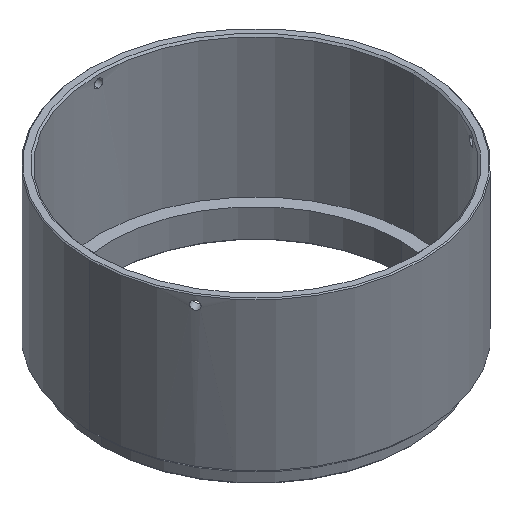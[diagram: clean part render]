
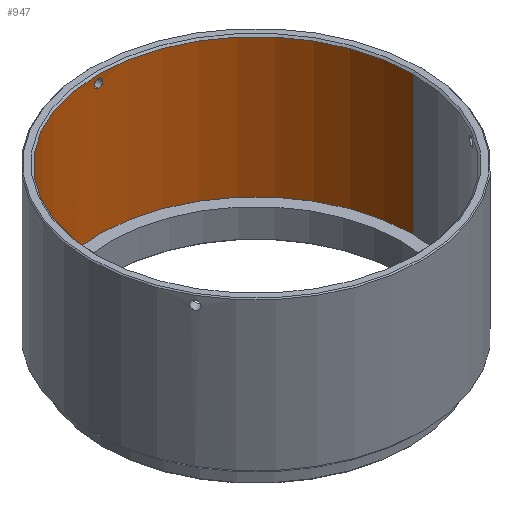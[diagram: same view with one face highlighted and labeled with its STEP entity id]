
A CAD part, isometric view. The second image highlights one B-rep face of the part: STEP entity #947.
In plain terms, the highlighted cylindrical face has radius 46 mm (diameter 92 mm), a partial arc.
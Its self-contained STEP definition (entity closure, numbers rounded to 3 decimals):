
#4 = CARTESIAN_POINT ( 'NONE',  ( -1.085, 45.987, 54.325 ) ) ;
#43 = ORIENTED_EDGE ( 'NONE', *, *, #868, .F. ) ;
#53 = CARTESIAN_POINT ( 'NONE',  ( -46., 0., 15.5 ) ) ;
#54 = CARTESIAN_POINT ( 'NONE',  ( 0.082, 46., 52.45 ) ) ;
#57 = CARTESIAN_POINT ( 'NONE',  ( 1.217, 45.984, 54.028 ) ) ;
#61 = LINE ( 'NONE', #386, #427 ) ;
#101 = ORIENTED_EDGE ( 'NONE', *, *, #196, .F. ) ;
#113 = VERTEX_POINT ( 'NONE', #187 ) ;
#137 = CARTESIAN_POINT ( 'NONE',  ( 0., 46., 52.45 ) ) ;
#139 = CARTESIAN_POINT ( 'NONE',  ( 0.403, 45.998, 52.514 ) ) ;
#144 = CARTESIAN_POINT ( 'NONE',  ( 0.165, 46., 54.95 ) ) ;
#152 = CARTESIAN_POINT ( 'NONE',  ( 0.327, 45.999, 54.917 ) ) ;
#158 = ORIENTED_EDGE ( 'NONE', *, *, #676, .T. ) ;
#171 = EDGE_LOOP ( 'NONE', ( #422, #368 ) ) ;
#187 = CARTESIAN_POINT ( 'NONE',  ( 46., 0., 56. ) ) ;
#196 = EDGE_CURVE ( 'NONE', #597, #917, #61, .T. ) ;
#215 = CARTESIAN_POINT ( 'NONE',  ( 0., 0., 15.5 ) ) ;
#218 = EDGE_CURVE ( 'NONE', #579, #494, #411, .T. ) ;
#224 = CARTESIAN_POINT ( 'NONE',  ( 0.769, 45.994, 54.699 ) ) ;
#229 = DIRECTION ( 'NONE',  ( 0., 0., 1. ) ) ;
#235 = CARTESIAN_POINT ( 'NONE',  ( 0.325, 45.999, 52.49 ) ) ;
#248 = CARTESIAN_POINT ( 'NONE',  ( 46., 0., 69.308 ) ) ;
#253 = CARTESIAN_POINT ( 'NONE',  ( -46., 0., 56. ) ) ;
#254 = CARTESIAN_POINT ( 'NONE',  ( -0.768, 45.994, 52.7 ) ) ;
#258 = DIRECTION ( 'NONE',  ( -1., 0., 0. ) ) ;
#270 = DIRECTION ( 'NONE',  ( 0., 0., 1. ) ) ;
#305 = CARTESIAN_POINT ( 'NONE',  ( 0., 46., 54.95 ) ) ;
#309 = CARTESIAN_POINT ( 'NONE',  ( 1.092, 45.987, 53.071 ) ) ;
#314 = CARTESIAN_POINT ( 'NONE',  ( 0.767, 45.994, 52.7 ) ) ;
#328 = CARTESIAN_POINT ( 'NONE',  ( -1.217, 45.984, 53.372 ) ) ;
#332 = DIRECTION ( 'NONE',  ( 1., 0., 0. ) ) ;
#368 = ORIENTED_EDGE ( 'NONE', *, *, #633, .T. ) ;
#369 = CIRCLE ( 'NONE', #991, 46. ) ;
#386 = CARTESIAN_POINT ( 'NONE',  ( -46., 0., 69.308 ) ) ;
#387 = VECTOR ( 'NONE', #663, 1000. ) ;
#401 = AXIS2_PLACEMENT_3D ( 'NONE', #585, #835, #332 ) ;
#408 = CARTESIAN_POINT ( 'NONE',  ( -0.999, 45.989, 52.931 ) ) ;
#411 = B_SPLINE_CURVE_WITH_KNOTS ( 'NONE', 3,
 ( #305, #144, #152, #1079, #224, #742, #478, #57, #999, #984, #728, #309, #817, #314, #901, #139, #235, #813, #54, #905 ),
 .UNSPECIFIED., .F., .F.,
 ( 4, 2, 2, 2, 2, 2, 2, 2, 2, 4 ),
 ( 0., 0., 0.001, 0.001, 0.002, 0.002, 0.003, 0.003, 0.004, 0.004 ),
 .UNSPECIFIED. ) ;
#419 = CARTESIAN_POINT ( 'NONE',  ( -0.769, 45.994, 54.699 ) ) ;
#422 = ORIENTED_EDGE ( 'NONE', *, *, #218, .T. ) ;
#425 = CARTESIAN_POINT ( 'NONE',  ( -1.218, 45.984, 54.026 ) ) ;
#427 = VECTOR ( 'NONE', #472, 1000. ) ;
#450 = VERTEX_POINT ( 'NONE', #791 ) ;
#472 = DIRECTION ( 'NONE',  ( 0., 0., 1. ) ) ;
#474 = DIRECTION ( 'NONE',  ( 1., 0., 0. ) ) ;
#478 = CARTESIAN_POINT ( 'NONE',  ( 1.092, 45.987, 54.329 ) ) ;
#492 = CARTESIAN_POINT ( 'NONE',  ( -0.942, 45.99, 54.526 ) ) ;
#494 = VERTEX_POINT ( 'NONE', #137 ) ;
#499 = CYLINDRICAL_SURFACE ( 'NONE', #401, 46. ) ;
#519 = EDGE_LOOP ( 'NONE', ( #101, #43, #158, #661 ) ) ;
#557 = CARTESIAN_POINT ( 'NONE',  ( 0., 46., 54.95 ) ) ;
#567 = CARTESIAN_POINT ( 'NONE',  ( -0.995, 45.989, 54.461 ) ) ;
#571 = CARTESIAN_POINT ( 'NONE',  ( -1.25, 45.983, 53.534 ) ) ;
#579 = VERTEX_POINT ( 'NONE', #557 ) ;
#585 = CARTESIAN_POINT ( 'NONE',  ( 0., 0., 69.308 ) ) ;
#586 = CARTESIAN_POINT ( 'NONE',  ( -0.329, 45.999, 54.917 ) ) ;
#597 = VERTEX_POINT ( 'NONE', #53 ) ;
#599 = CARTESIAN_POINT ( 'NONE',  ( 0., 0., 56. ) ) ;
#633 = EDGE_CURVE ( 'NONE', #494, #579, #968, .T. ) ;
#661 = ORIENTED_EDGE ( 'NONE', *, *, #1026, .T. ) ;
#663 = DIRECTION ( 'NONE',  ( 0., 0., 1. ) ) ;
#670 = CARTESIAN_POINT ( 'NONE',  ( -0.163, 46., 52.45 ) ) ;
#675 = CARTESIAN_POINT ( 'NONE',  ( 0., 46., 54.95 ) ) ;
#676 = EDGE_CURVE ( 'NONE', #450, #113, #998, .T. ) ;
#728 = CARTESIAN_POINT ( 'NONE',  ( 1.218, 45.984, 53.374 ) ) ;
#742 = CARTESIAN_POINT ( 'NONE',  ( 0.999, 45.989, 54.468 ) ) ;
#748 = CARTESIAN_POINT ( 'NONE',  ( -1.25, 45.983, 53.864 ) ) ;
#752 = FACE_OUTER_BOUND ( 'NONE', #519, .T. ) ;
#765 = CARTESIAN_POINT ( 'NONE',  ( -1.092, 45.987, 53.069 ) ) ;
#791 = CARTESIAN_POINT ( 'NONE',  ( 46., 0., 15.5 ) ) ;
#813 = CARTESIAN_POINT ( 'NONE',  ( 0.164, 46., 52.458 ) ) ;
#817 = CARTESIAN_POINT ( 'NONE',  ( 1.001, 45.989, 52.933 ) ) ;
#832 = CARTESIAN_POINT ( 'NONE',  ( -0.628, 45.996, 52.607 ) ) ;
#835 = DIRECTION ( 'NONE',  ( 0., 0., 1. ) ) ;
#841 = CARTESIAN_POINT ( 'NONE',  ( -0.328, 45.999, 52.483 ) ) ;
#868 = EDGE_CURVE ( 'NONE', #450, #597, #899, .T. ) ;
#899 = CIRCLE ( 'NONE', #1049, 46. ) ;
#901 = CARTESIAN_POINT ( 'NONE',  ( 0.63, 45.996, 52.608 ) ) ;
#905 = CARTESIAN_POINT ( 'NONE',  ( 0., 46., 52.45 ) ) ;
#912 = CARTESIAN_POINT ( 'NONE',  ( -0.63, 45.996, 54.792 ) ) ;
#917 = VERTEX_POINT ( 'NONE', #253 ) ;
#928 = CARTESIAN_POINT ( 'NONE',  ( -1.124, 45.986, 54.253 ) ) ;
#947 = ADVANCED_FACE ( 'NONE', ( #752, #1007 ), #499, .F. ) ;
#968 = B_SPLINE_CURVE_WITH_KNOTS ( 'NONE', 3,
 ( #987, #670, #841, #832, #254, #408, #765, #328, #571, #748, #425, #928, #4, #567, #492, #419, #912, #586, #1018, #675 ),
 .UNSPECIFIED., .F., .F.,
 ( 4, 2, 2, 2, 2, 2, 2, 2, 2, 4 ),
 ( 0.004, 0.004, 0.005, 0.005, 0.006, 0.006, 0.007, 0.007, 0.007, 0.008 ),
 .UNSPECIFIED. ) ;
#984 = CARTESIAN_POINT ( 'NONE',  ( 1.25, 45.983, 53.537 ) ) ;
#987 = CARTESIAN_POINT ( 'NONE',  ( 0., 46., 52.45 ) ) ;
#991 = AXIS2_PLACEMENT_3D ( 'NONE', #599, #270, #258 ) ;
#998 = LINE ( 'NONE', #248, #387 ) ;
#999 = CARTESIAN_POINT ( 'NONE',  ( 1.25, 45.983, 53.864 ) ) ;
#1007 = FACE_BOUND ( 'NONE', #171, .T. ) ;
#1018 = CARTESIAN_POINT ( 'NONE',  ( -0.165, 46., 54.95 ) ) ;
#1026 = EDGE_CURVE ( 'NONE', #113, #917, #369, .T. ) ;
#1049 = AXIS2_PLACEMENT_3D ( 'NONE', #215, #229, #474 ) ;
#1079 = CARTESIAN_POINT ( 'NONE',  ( 0.63, 45.996, 54.792 ) ) ;
